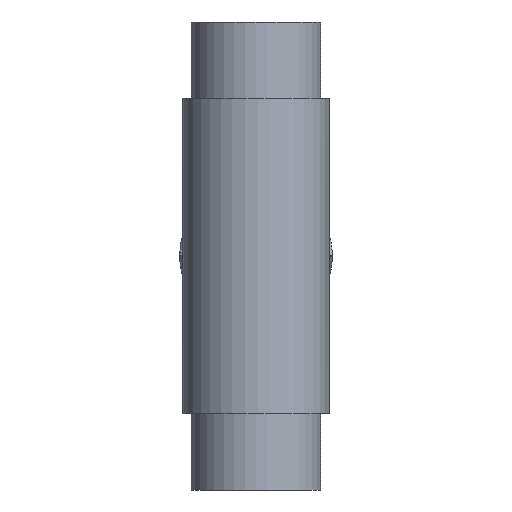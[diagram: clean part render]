
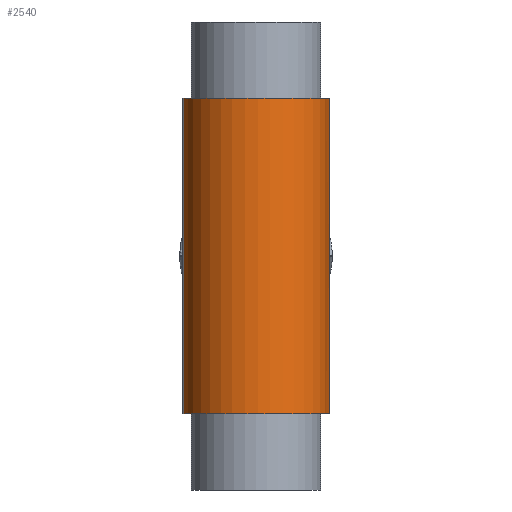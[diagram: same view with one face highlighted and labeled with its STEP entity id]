
A CAD part, front view. The second image highlights one B-rep face of the part: STEP entity #2540.
In plain terms, the highlighted cylindrical face has radius 62.7 mm (diameter 125.4 mm), a partial arc.
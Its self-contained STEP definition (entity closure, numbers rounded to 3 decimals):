
#69 = CARTESIAN_POINT ( 'NONE',  ( 61.495, 12.232, 484.272 ) ) ;
#124 = CARTESIAN_POINT ( 'NONE',  ( 62.633, -2.906, 500.326 ) ) ;
#151 = CARTESIAN_POINT ( 'NONE',  ( 61.985, 9.77, 486.719 ) ) ;
#154 = VECTOR ( 'NONE', #3040, 1000. ) ;
#199 = CARTESIAN_POINT ( 'NONE',  ( 62.638, -2.781, 500.714 ) ) ;
#232 = ORIENTED_EDGE ( 'NONE', *, *, #1734, .T. ) ;
#268 = CARTESIAN_POINT ( 'NONE',  ( 62.638, -2.781, 499.287 ) ) ;
#305 = EDGE_CURVE ( 'NONE', #1392, #4954, #5041, .T. ) ;
#316 = CARTESIAN_POINT ( 'NONE',  ( 62.633, -2.899, 500.063 ) ) ;
#349 = EDGE_CURVE ( 'NONE', #4244, #862, #4903, .T. ) ;
#388 = CARTESIAN_POINT ( 'NONE',  ( 62.633, -2.902, 500.19 ) ) ;
#456 = VERTEX_POINT ( 'NONE', #1184 ) ;
#475 = CARTESIAN_POINT ( 'NONE',  ( 62.609, 3.591, 492.878 ) ) ;
#488 = DIRECTION ( 'NONE',  ( 0., 0., 1. ) ) ;
#496 = CARTESIAN_POINT ( 'NONE',  ( 62.705, 2.344, 505.878 ) ) ;
#525 = CARTESIAN_POINT ( 'NONE',  ( 62.749, -0.134, 503.404 ) ) ;
#530 = LINE ( 'NONE', #999, #154 ) ;
#588 = EDGE_LOOP ( 'NONE', ( #4387, #4324, #232, #4792, #4364, #3017, #5011, #3760, #2295, #2443 ) ) ;
#604 = EDGE_CURVE ( 'NONE', #1034, #4111, #4055, .T. ) ;
#671 = EDGE_CURVE ( 'NONE', #4111, #456, #530, .T. ) ;
#673 = EDGE_CURVE ( 'NONE', #5195, #2865, #5289, .T. ) ;
#675 = B_SPLINE_CURVE_WITH_KNOTS ( 'NONE', 3,
 ( #3487, #3921, #199, #1861, #124, #3510 ),
 .UNSPECIFIED., .F., .F.,
 ( 4, 2, 4 ),
 ( 0., 0., 0.001 ),
 .UNSPECIFIED. ) ;
#708 = CARTESIAN_POINT ( 'NONE',  ( 62.646, -2.609, 499.075 ) ) ;
#862 = VERTEX_POINT ( 'NONE', #388 ) ;
#929 = LINE ( 'NONE', #3580, #2942 ) ;
#973 = DIRECTION ( 'NONE',  ( 0., 0., -1. ) ) ;
#999 = CARTESIAN_POINT ( 'NONE',  ( -61.495, -12.232, 365. ) ) ;
#1031 = CARTESIAN_POINT ( 'NONE',  ( 62.634, -2.882, 499.539 ) ) ;
#1034 = VERTEX_POINT ( 'NONE', #4235 ) ;
#1184 = CARTESIAN_POINT ( 'NONE',  ( -61.495, -12.232, 635. ) ) ;
#1341 = CARTESIAN_POINT ( 'NONE',  ( 0., 0., 365. ) ) ;
#1392 = VERTEX_POINT ( 'NONE', #2835 ) ;
#1658 = EDGE_CURVE ( 'NONE', #4244, #5195, #4063, .T. ) ;
#1734 = EDGE_CURVE ( 'NONE', #1034, #2865, #929, .T. ) ;
#1861 = CARTESIAN_POINT ( 'NONE',  ( 62.634, -2.881, 500.462 ) ) ;
#1890 = CARTESIAN_POINT ( 'NONE',  ( 61.495, 12.232, 484.272 ) ) ;
#1915 = CARTESIAN_POINT ( 'NONE',  ( 0., 0., 635. ) ) ;
#1924 = CARTESIAN_POINT ( 'NONE',  ( 62.633, -2.902, 500.19 ) ) ;
#2039 = VERTEX_POINT ( 'NONE', #4661 ) ;
#2140 = EDGE_CURVE ( 'NONE', #4954, #456, #4321, .T. ) ;
#2162 = CARTESIAN_POINT ( 'NONE',  ( 62.668, 2.352, 494.114 ) ) ;
#2221 = CARTESIAN_POINT ( 'NONE',  ( 62.323, 7.302, 489.177 ) ) ;
#2244 = CARTESIAN_POINT ( 'NONE',  ( 62.697, -1.37, 497.834 ) ) ;
#2266 = DIRECTION ( 'NONE',  ( 0., 0., -1. ) ) ;
#2285 = FACE_OUTER_BOUND ( 'NONE', #588, .T. ) ;
#2295 = ORIENTED_EDGE ( 'NONE', *, *, #305, .T. ) ;
#2338 = CARTESIAN_POINT ( 'NONE',  ( 62.633, -2.902, 499.81 ) ) ;
#2364 = CYLINDRICAL_SURFACE ( 'NONE', #4512, 62.7 ) ;
#2367 = CARTESIAN_POINT ( 'NONE',  ( 62.646, -2.609, 499.075 ) ) ;
#2389 = CARTESIAN_POINT ( 'NONE',  ( 62.633, -2.899, 499.937 ) ) ;
#2443 = ORIENTED_EDGE ( 'NONE', *, *, #2140, .T. ) ;
#2490 = VECTOR ( 'NONE', #488, 1000. ) ;
#2514 = CARTESIAN_POINT ( 'NONE',  ( 61.495, 12.232, 515.728 ) ) ;
#2540 = ADVANCED_FACE ( 'NONE', ( #2285 ), #2364, .T. ) ;
#2685 = DIRECTION ( 'NONE',  ( 0., 0., 1. ) ) ;
#2715 = CARTESIAN_POINT ( 'NONE',  ( 62.633, -2.902, 499.81 ) ) ;
#2835 = CARTESIAN_POINT ( 'NONE',  ( 61.495, 12.232, 515.728 ) ) ;
#2865 = VERTEX_POINT ( 'NONE', #1890 ) ;
#2942 = VECTOR ( 'NONE', #5173, 1000. ) ;
#2974 = EDGE_CURVE ( 'NONE', #1392, #2039, #5174, .T. ) ;
#3017 = ORIENTED_EDGE ( 'NONE', *, *, #349, .T. ) ;
#3040 = DIRECTION ( 'NONE',  ( 0., 0., 1. ) ) ;
#3370 = AXIS2_PLACEMENT_3D ( 'NONE', #1915, #2266, #5159 ) ;
#3415 = CARTESIAN_POINT ( 'NONE',  ( 62.712, -0.128, 496.592 ) ) ;
#3487 = CARTESIAN_POINT ( 'NONE',  ( 62.646, -2.609, 500.925 ) ) ;
#3510 = CARTESIAN_POINT ( 'NONE',  ( 62.633, -2.902, 500.19 ) ) ;
#3525 = CARTESIAN_POINT ( 'NONE',  ( 62.642, -2.706, 499.171 ) ) ;
#3580 = CARTESIAN_POINT ( 'NONE',  ( 61.495, 12.232, 365. ) ) ;
#3760 = ORIENTED_EDGE ( 'NONE', *, *, #2974, .F. ) ;
#3836 = CARTESIAN_POINT ( 'NONE',  ( 62.646, -2.609, 500.925 ) ) ;
#3868 = DIRECTION ( 'NONE',  ( -0.981, -0.195, 0. ) ) ;
#3921 = CARTESIAN_POINT ( 'NONE',  ( 62.642, -2.706, 500.829 ) ) ;
#4055 = CIRCLE ( 'NONE', #4486, 62.7 ) ;
#4063 = B_SPLINE_CURVE_WITH_KNOTS ( 'NONE', 3,
 ( #2715, #4230, #1031, #268, #3525, #2367 ),
 .UNSPECIFIED., .F., .F.,
 ( 4, 2, 4 ),
 ( 0., 0., 0.001 ),
 .UNSPECIFIED. ) ;
#4106 = CARTESIAN_POINT ( 'NONE',  ( 61.495, 12.232, 365. ) ) ;
#4111 = VERTEX_POINT ( 'NONE', #4125 ) ;
#4125 = CARTESIAN_POINT ( 'NONE',  ( -61.495, -12.232, 365. ) ) ;
#4131 = CARTESIAN_POINT ( 'NONE',  ( 62.633, -2.902, 499.81 ) ) ;
#4159 = CARTESIAN_POINT ( 'NONE',  ( 62.323, 7.3, 510.822 ) ) ;
#4207 = CARTESIAN_POINT ( 'NONE',  ( 61.985, 9.772, 513.283 ) ) ;
#4230 = CARTESIAN_POINT ( 'NONE',  ( 62.633, -2.906, 499.674 ) ) ;
#4235 = CARTESIAN_POINT ( 'NONE',  ( 61.495, 12.232, 365. ) ) ;
#4244 = VERTEX_POINT ( 'NONE', #4131 ) ;
#4321 = CIRCLE ( 'NONE', #3370, 62.7 ) ;
#4324 = ORIENTED_EDGE ( 'NONE', *, *, #604, .F. ) ;
#4364 = ORIENTED_EDGE ( 'NONE', *, *, #1658, .F. ) ;
#4387 = ORIENTED_EDGE ( 'NONE', *, *, #671, .F. ) ;
#4486 = AXIS2_PLACEMENT_3D ( 'NONE', #1341, #973, #3868 ) ;
#4512 = AXIS2_PLACEMENT_3D ( 'NONE', #5251, #2685, #4726 ) ;
#4661 = CARTESIAN_POINT ( 'NONE',  ( 62.646, -2.609, 500.925 ) ) ;
#4688 = CARTESIAN_POINT ( 'NONE',  ( 62.646, -2.609, 499.075 ) ) ;
#4726 = DIRECTION ( 'NONE',  ( 0.981, 0.195, 0. ) ) ;
#4792 = ORIENTED_EDGE ( 'NONE', *, *, #673, .F. ) ;
#4903 = B_SPLINE_CURVE_WITH_KNOTS ( 'NONE', 3,
 ( #2338, #2389, #316, #1924 ),
 .UNSPECIFIED., .F., .F.,
 ( 4, 4 ),
 ( 0., 0. ),
 .UNSPECIFIED. ) ;
#4954 = VERTEX_POINT ( 'NONE', #5237 ) ;
#5011 = ORIENTED_EDGE ( 'NONE', *, *, #5012, .F. ) ;
#5012 = EDGE_CURVE ( 'NONE', #2039, #862, #675, .T. ) ;
#5041 = LINE ( 'NONE', #4106, #2490 ) ;
#5159 = DIRECTION ( 'NONE',  ( -0.981, -0.195, 0. ) ) ;
#5173 = DIRECTION ( 'NONE',  ( 0., 0., 1. ) ) ;
#5174 = B_SPLINE_CURVE_WITH_KNOTS ( 'NONE', 3,
 ( #2514, #4207, #4159, #496, #525, #3836 ),
 .UNSPECIFIED., .F., .F.,
 ( 4, 2, 4 ),
 ( 0.227, 0.237, 0.248 ),
 .UNSPECIFIED. ) ;
#5195 = VERTEX_POINT ( 'NONE', #708 ) ;
#5237 = CARTESIAN_POINT ( 'NONE',  ( 61.495, 12.232, 635. ) ) ;
#5251 = CARTESIAN_POINT ( 'NONE',  ( 0., 0., 365. ) ) ;
#5289 = B_SPLINE_CURVE_WITH_KNOTS ( 'NONE', 3,
 ( #4688, #2244, #3415, #2162, #475, #2221, #151, #69 ),
 .UNSPECIFIED., .F., .F.,
 ( 4, 2, 2, 4 ),
 ( 0.002, 0.007, 0.012, 0.023 ),
 .UNSPECIFIED. ) ;
